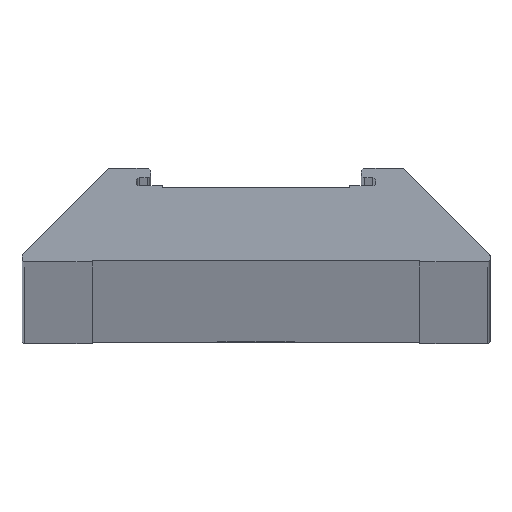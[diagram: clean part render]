
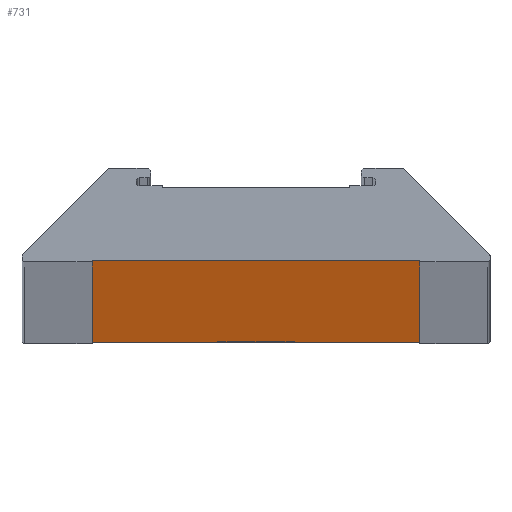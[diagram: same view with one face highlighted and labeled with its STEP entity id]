
A CAD part, top view. The second image highlights one B-rep face of the part: STEP entity #731.
In plain terms, the highlighted planar face has unit normal (0, -1, 0).
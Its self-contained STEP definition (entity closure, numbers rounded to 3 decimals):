
#23 = CIRCLE ( 'NONE', #192, 1.7 ) ;
#63 = ORIENTED_EDGE ( 'NONE', *, *, #1261, .T. ) ;
#103 = VERTEX_POINT ( 'NONE', #1020 ) ;
#113 = VERTEX_POINT ( 'NONE', #937 ) ;
#114 = CARTESIAN_POINT ( 'NONE',  ( 17., 0.05, 2000. ) ) ;
#130 = EDGE_LOOP ( 'NONE', ( #390, #716 ) ) ;
#134 = AXIS2_PLACEMENT_3D ( 'NONE', #888, #996, #315 ) ;
#192 = AXIS2_PLACEMENT_3D ( 'NONE', #1073, #973, #961 ) ;
#202 = PLANE ( 'NONE',  #134 ) ;
#207 = CARTESIAN_POINT ( 'NONE',  ( 10., 0.05, 20. ) ) ;
#215 = EDGE_CURVE ( 'NONE', #103, #437, #23, .T. ) ;
#240 = DIRECTION ( 'NONE',  ( 0., 0., -1. ) ) ;
#259 = ORIENTED_EDGE ( 'NONE', *, *, #847, .F. ) ;
#297 = CARTESIAN_POINT ( 'NONE',  ( 17., 0.05, 2000. ) ) ;
#315 = DIRECTION ( 'NONE',  ( -1., 0., 0. ) ) ;
#342 = CARTESIAN_POINT ( 'NONE',  ( 17., 0.05, 2000. ) ) ;
#390 = ORIENTED_EDGE ( 'NONE', *, *, #215, .T. ) ;
#401 = DIRECTION ( 'NONE',  ( -1., 0., 0. ) ) ;
#408 = EDGE_CURVE ( 'NONE', #437, #103, #729, .T. ) ;
#437 = VERTEX_POINT ( 'NONE', #1278 ) ;
#486 = VECTOR ( 'NONE', #1348, 1000. ) ;
#543 = FACE_OUTER_BOUND ( 'NONE', #1082, .T. ) ;
#547 = CARTESIAN_POINT ( 'NONE',  ( 3., 0.05, 0. ) ) ;
#626 = LINE ( 'NONE', #114, #1035 ) ;
#665 = DIRECTION ( 'NONE',  ( 0., 1., 0. ) ) ;
#716 = ORIENTED_EDGE ( 'NONE', *, *, #408, .T. ) ;
#729 = CIRCLE ( 'NONE', #1380, 1.7 ) ;
#731 = ADVANCED_FACE ( 'NONE', ( #1376, #543 ), #202, .F. ) ;
#747 = VERTEX_POINT ( 'NONE', #547 ) ;
#748 = CARTESIAN_POINT ( 'NONE',  ( 3., 0.05, 2000. ) ) ;
#820 = CARTESIAN_POINT ( 'NONE',  ( 17., 0.05, 0. ) ) ;
#822 = VECTOR ( 'NONE', #240, 1000. ) ;
#840 = LINE ( 'NONE', #748, #1371 ) ;
#847 = EDGE_CURVE ( 'NONE', #1327, #1336, #626, .T. ) ;
#869 = CARTESIAN_POINT ( 'NONE',  ( 3., 0.05, 2000. ) ) ;
#888 = CARTESIAN_POINT ( 'NONE',  ( 17., 0.05, 2000. ) ) ;
#911 = DIRECTION ( 'NONE',  ( 1., 0., 0. ) ) ;
#922 = EDGE_CURVE ( 'NONE', #1336, #113, #1114, .T. ) ;
#937 = CARTESIAN_POINT ( 'NONE',  ( 17., 0.05, 0. ) ) ;
#957 = ORIENTED_EDGE ( 'NONE', *, *, #987, .T. ) ;
#961 = DIRECTION ( 'NONE',  ( -1., 0., 0. ) ) ;
#973 = DIRECTION ( 'NONE',  ( 0., 1., 0. ) ) ;
#987 = EDGE_CURVE ( 'NONE', #747, #113, #1292, .T. ) ;
#996 = DIRECTION ( 'NONE',  ( 0., 1., 0. ) ) ;
#1020 = CARTESIAN_POINT ( 'NONE',  ( 10., 0.05, 21.7 ) ) ;
#1035 = VECTOR ( 'NONE', #911, 1000. ) ;
#1073 = CARTESIAN_POINT ( 'NONE',  ( 10., 0.05, 20. ) ) ;
#1082 = EDGE_LOOP ( 'NONE', ( #957, #1375, #259, #63 ) ) ;
#1114 = LINE ( 'NONE', #342, #822 ) ;
#1176 = DIRECTION ( 'NONE',  ( 0., 0., -1. ) ) ;
#1261 = EDGE_CURVE ( 'NONE', #1327, #747, #840, .T. ) ;
#1278 = CARTESIAN_POINT ( 'NONE',  ( 10., 0.05, 18.3 ) ) ;
#1292 = LINE ( 'NONE', #820, #486 ) ;
#1327 = VERTEX_POINT ( 'NONE', #869 ) ;
#1336 = VERTEX_POINT ( 'NONE', #297 ) ;
#1348 = DIRECTION ( 'NONE',  ( 1., 0., 0. ) ) ;
#1371 = VECTOR ( 'NONE', #1176, 1000. ) ;
#1375 = ORIENTED_EDGE ( 'NONE', *, *, #922, .F. ) ;
#1376 = FACE_BOUND ( 'NONE', #130, .T. ) ;
#1380 = AXIS2_PLACEMENT_3D ( 'NONE', #207, #665, #401 ) ;
